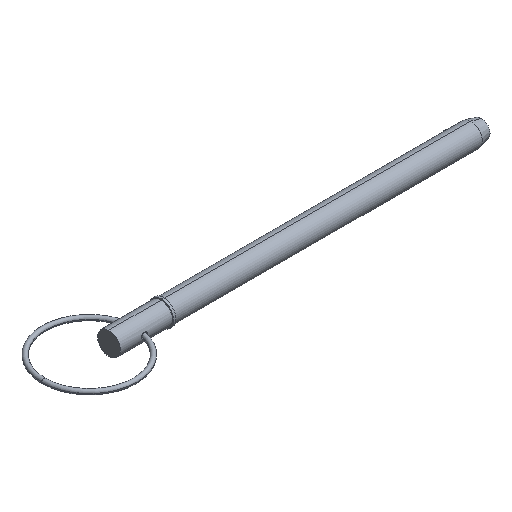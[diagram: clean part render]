
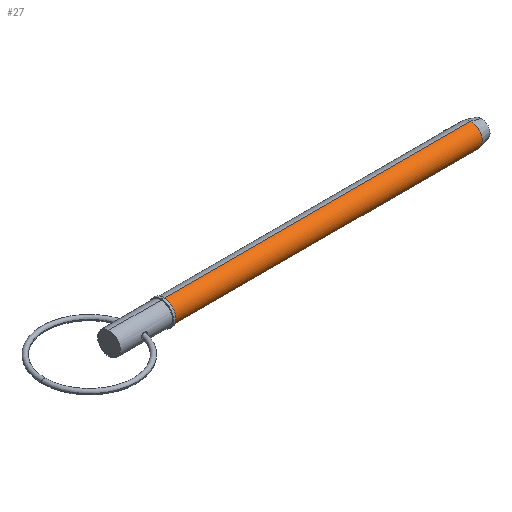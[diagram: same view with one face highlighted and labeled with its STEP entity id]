
A CAD part, isometric view. The second image highlights one B-rep face of the part: STEP entity #27.
In plain terms, the highlighted cylindrical face has radius 3.97 mm (diameter 7.94 mm), a partial arc.
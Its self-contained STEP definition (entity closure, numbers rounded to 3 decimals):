
#27 = ADVANCED_FACE ( 'NONE', ( #788 ), #1000, .T. ) ;
#43 = ORIENTED_EDGE ( 'NONE', *, *, #746, .T. ) ;
#45 = VECTOR ( 'NONE', #831, 1000. ) ;
#94 = DIRECTION ( 'NONE',  ( 0., 0., -1. ) ) ;
#178 = VERTEX_POINT ( 'NONE', #858 ) ;
#180 = VECTOR ( 'NONE', #745, 1000. ) ;
#207 = CARTESIAN_POINT ( 'NONE',  ( 19.05, 0., -3.97 ) ) ;
#244 = ORIENTED_EDGE ( 'NONE', *, *, #528, .T. ) ;
#250 = VERTEX_POINT ( 'NONE', #893 ) ;
#312 = EDGE_CURVE ( 'NONE', #178, #570, #837, .T. ) ;
#324 = DIRECTION ( 'NONE',  ( 1., 0., 0. ) ) ;
#388 = AXIS2_PLACEMENT_3D ( 'NONE', #539, #767, #94 ) ;
#432 = VERTEX_POINT ( 'NONE', #207 ) ;
#442 = CIRCLE ( 'NONE', #839, 3.97 ) ;
#518 = LINE ( 'NONE', #985, #45 ) ;
#521 = CARTESIAN_POINT ( 'NONE',  ( 0., 0., -3.97 ) ) ;
#528 = EDGE_CURVE ( 'NONE', #432, #570, #583, .T. ) ;
#534 = CARTESIAN_POINT ( 'NONE',  ( 126.476, 0., 0. ) ) ;
#539 = CARTESIAN_POINT ( 'NONE',  ( 0., 0., 0. ) ) ;
#570 = VERTEX_POINT ( 'NONE', #840 ) ;
#577 = DIRECTION ( 'NONE',  ( 1., 0., 0. ) ) ;
#580 = AXIS2_PLACEMENT_3D ( 'NONE', #534, #577, #586 ) ;
#583 = LINE ( 'NONE', #521, #180 ) ;
#586 = DIRECTION ( 'NONE',  ( 0., 0., -1. ) ) ;
#605 = EDGE_CURVE ( 'NONE', #250, #178, #518, .T. ) ;
#622 = DIRECTION ( 'NONE',  ( 0., 0., -1. ) ) ;
#656 = EDGE_LOOP ( 'NONE', ( #996, #43, #244, #701 ) ) ;
#701 = ORIENTED_EDGE ( 'NONE', *, *, #312, .F. ) ;
#745 = DIRECTION ( 'NONE',  ( 1., 0., 0. ) ) ;
#746 = EDGE_CURVE ( 'NONE', #250, #432, #442, .T. ) ;
#767 = DIRECTION ( 'NONE',  ( 1., 0., 0. ) ) ;
#788 = FACE_OUTER_BOUND ( 'NONE', #656, .T. ) ;
#831 = DIRECTION ( 'NONE',  ( 1., 0., 0. ) ) ;
#837 = CIRCLE ( 'NONE', #580, 3.97 ) ;
#839 = AXIS2_PLACEMENT_3D ( 'NONE', #958, #324, #622 ) ;
#840 = CARTESIAN_POINT ( 'NONE',  ( 126.476, 0., -3.97 ) ) ;
#858 = CARTESIAN_POINT ( 'NONE',  ( 126.476, 0., 3.97 ) ) ;
#893 = CARTESIAN_POINT ( 'NONE',  ( 19.05, 0., 3.97 ) ) ;
#958 = CARTESIAN_POINT ( 'NONE',  ( 19.05, 0., 0. ) ) ;
#985 = CARTESIAN_POINT ( 'NONE',  ( 0., 0., 3.97 ) ) ;
#996 = ORIENTED_EDGE ( 'NONE', *, *, #605, .F. ) ;
#1000 = CYLINDRICAL_SURFACE ( 'NONE', #388, 3.97 ) ;
